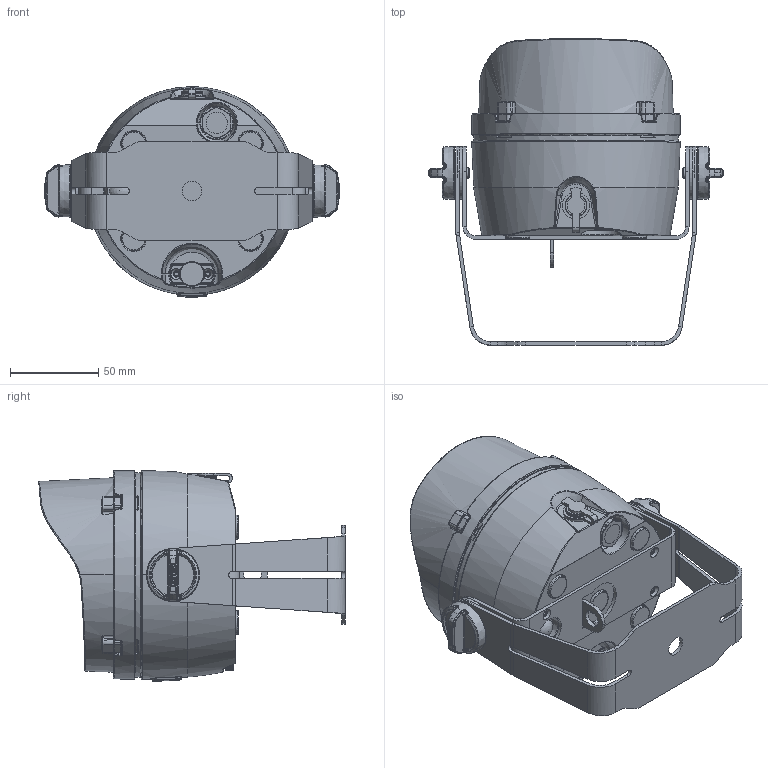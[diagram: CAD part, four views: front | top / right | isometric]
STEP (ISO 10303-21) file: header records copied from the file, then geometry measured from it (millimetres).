
FILE_DESCRIPTION(('HOOPS Exchange Step'),'2;1');
FILE_NAME('E:\cdb\hoops_acs\acs\9788\78521\014386-5-Light Fixture.step','2024-07-01T10:19:46+02:00',('caddok'),('Unknown organisation'),'HOOPS Exchange 2024.0','HOOPS Exchange','Unknown authorisation');
FILE_SCHEMA( ('AP242_MANAGED_MODEL_BASED_3D_ENGINEERING_MIM_LF {1 0 10303 442 1 1 4 }') );
Length unit declared in the file: millimetre
Products named in the file (2): Standard; 014386-5-Light Fixture
Assembly tree (1 placements, depth 2):
  014386-5-Light Fixture
    Standard
Bounding box: 166.6 x 173.45 x 119.18 mm (x, y, z)
Volume: 138955.7 mm3; surface area: 199892.8 mm2
Topology: 26 solids, 33 shells, 3201 faces, 8166 edges, 5060 vertices
Faces by surface type: bspline 1551, cylinder 587, plane 424, torus 395, cone 224, sphere 20
Full cylindrical faces by diameter (mm): 1.3 x1, 1.6 x6, 2 x1, 2.3 x10, 2.4 x1, 2.5 x1, 3.3 x4, 3.5 x6, 5.3 x1, 5.65 x1, 6 x20, 6.5 x3, 8.2 x5, 9.5 x1, 9.7 x2, 9.8 x2, 10 x5, 10.5 x1, 10.7 x7, 11 x2, 11.5 x4, 12 x5, 12.1 x2, 13.2 x2, 13.5 x5, 15.5 x1, 17.5 x2, 18.5 x1, 30 x2, 100 x1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
Entity records: 235245 total; most frequent: CARTESIAN_POINT 171219, ORIENTED_EDGE 16235, DIRECTION 8929, EDGE_CURVE 8134, VERTEX_POINT 5060, B_SPLINE_CURVE_WITH_KNOTS 4522, AXIS2_PLACEMENT_3D 3653, EDGE_LOOP 3363
